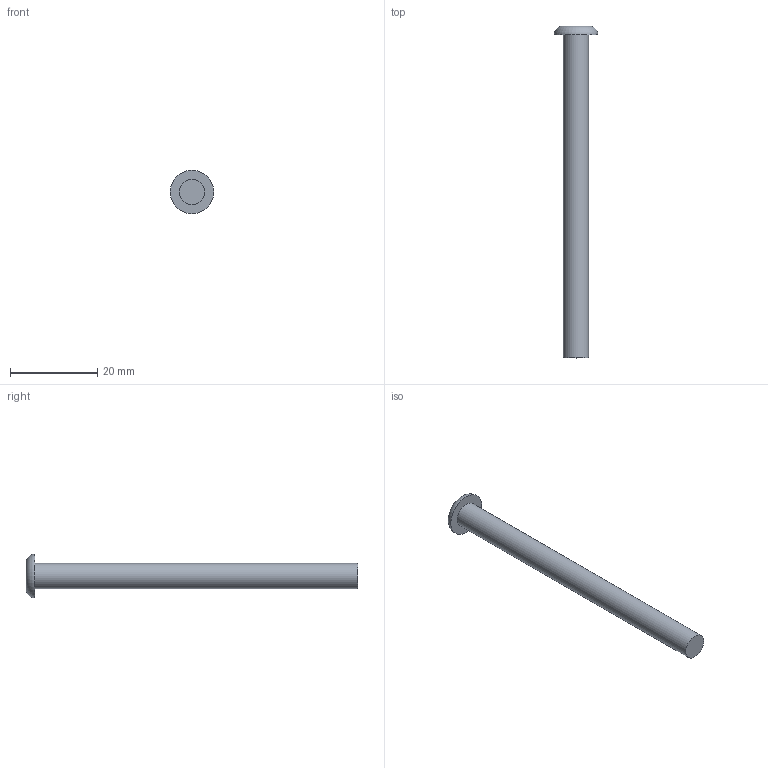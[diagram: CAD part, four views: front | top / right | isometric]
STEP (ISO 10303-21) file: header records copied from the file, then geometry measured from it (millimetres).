
FILE_DESCRIPTION(/* description */ ('STEP AP242 Edition 2','CAx-IF Rec.Pracs.---Representation and Presentation of Product Manufacturing Information (PMI)---4.0---2014-10-13','CAx-IF Rec.Pracs.---3D Tessellated Geometry---0.4---2014-09-14','2;1','CAx-IF Rec.Pracs.---User Defined Attributes---1.5---2016-08-15'),/* implementation_level */ '2;1');
FILE_NAME(/* name */ 'Assembly 1 - Stick',/* time_stamp */ '2026-08-25T12:52:25Z',/* author */ (''),/* organization */ (''),/* preprocessor_version */ 'ST-DEVELOPER v20',/* originating_system */ 'ONSHAPE BY PTC INC, 1.219',/* authorisation */ ' ');
FILE_SCHEMA (('AP242_MANAGED_MODEL_BASED_3D_ENGINEERING_MIM_LF { 1 0 10303 442 3 1 4 }'));
Length unit declared in the file: metre
Products named in the file (1): Stick
Bounding box: 10 x 76 x 10 mm (x, y, z)
Volume: 2087.7 mm3; surface area: 1539.5 mm2
Topology: 1 solids, 1 shells, 5 faces, 6 edges, 4 vertices
Faces by surface type: plane 3, cylinder 1, torus 1
Full cylindrical faces by diameter (mm): 5.8 x1
Entity records: 116 total; most frequent: DIRECTION 20, CARTESIAN_POINT 14, AXIS2_PLACEMENT_3D 10, ORIENTED_EDGE 8, EDGE_LOOP 8, FACE_BOUND 8, ADVANCED_FACE 5, EDGE_CURVE 4
